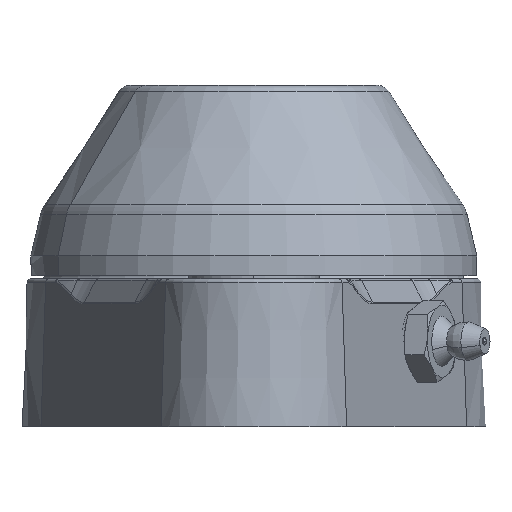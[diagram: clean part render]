
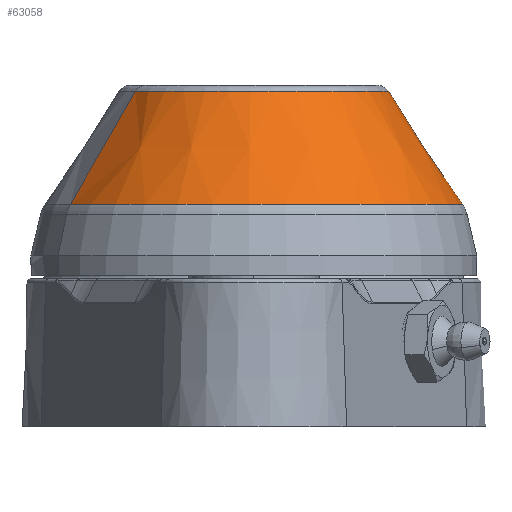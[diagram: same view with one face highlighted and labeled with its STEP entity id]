
A CAD part, left-side view. The second image highlights one B-rep face of the part: STEP entity #63058.
In plain terms, the highlighted conical face has half-angle 33.188 degrees and reference radius 20.592 mm.
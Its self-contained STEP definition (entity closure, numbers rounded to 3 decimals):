
#62084=CARTESIAN_POINT('Vertex',(-9.872,18.071,28.095)) ;
#62091=CARTESIAN_POINT('Vertex',(9.872,-18.071,28.095)) ;
#62111=CARTESIAN_POINT('Axis2P3D Location',(0.,0.,28.095)) ;
#63016=CARTESIAN_POINT('Line Origine',(-131220.921,240198.285,-418395.514)) ;
#63020=CARTESIAN_POINT('Vertex',(-15.265,27.942,10.9)) ;
#63023=CARTESIAN_POINT('Line Origine',(131220.921,-240198.285,-418395.514)) ;
#63027=CARTESIAN_POINT('Vertex',(15.265,-27.942,10.9)) ;
#63042=CARTESIAN_POINT('Axis2P3D Location',(0.,0.,28.095)) ;
#63047=CARTESIAN_POINT('Axis2P3D Location',(0.,0.,10.9)) ;
#62112=DIRECTION('Axis2P3D Direction',(0.,0.,1.)) ;
#63017=DIRECTION('Vector Direction',(-0.262,0.48,-0.837)) ;
#63024=DIRECTION('Vector Direction',(0.262,-0.48,-0.837)) ;
#63043=DIRECTION('Axis2P3D Direction',(-0.,-0.,-1.)) ;
#63044=DIRECTION('Axis2P3D XDirection',(0.479,-0.878,0.)) ;
#63048=DIRECTION('Axis2P3D Direction',(-0.,0.,-1.)) ;
#62113=AXIS2_PLACEMENT_3D('Circle Axis2P3D',#62111,#62112,$) ;
#63045=AXIS2_PLACEMENT_3D('Cone Axis2P3D',#63042,#63043,#63044) ;
#63049=AXIS2_PLACEMENT_3D('Circle Axis2P3D',#63047,#63048,$) ;
#63053=ORIENTED_EDGE('',*,*,#63029,.T.) ;
#63054=ORIENTED_EDGE('',*,*,#62115,.F.) ;
#63055=ORIENTED_EDGE('',*,*,#63022,.F.) ;
#63056=ORIENTED_EDGE('',*,*,#63051,.T.) ;
#63018=VECTOR('Line Direction',#63017,1.) ;
#63025=VECTOR('Line Direction',#63024,1.) ;
#63058=ADVANCED_FACE('PartBody',(#63057),#63046,.T.) ;
#62114=CIRCLE('generated circle',#62113,20.592) ;
#63050=CIRCLE('generated circle',#63049,31.839) ;
#63046=CONICAL_SURFACE('Cone',#63045,20.592,0.579) ;
#62115=EDGE_CURVE('',#62085,#62092,#62114,.T.) ;
#63022=EDGE_CURVE('',#63021,#62085,#63019,.F.) ;
#63029=EDGE_CURVE('',#63028,#62092,#63026,.F.) ;
#63051=EDGE_CURVE('',#63021,#63028,#63050,.F.) ;
#63052=EDGE_LOOP('',(#63053,#63054,#63055,#63056)) ;
#63057=FACE_OUTER_BOUND('',#63052,.T.) ;
#63019=LINE('Line',#63016,#63018) ;
#63026=LINE('Line',#63023,#63025) ;
#62085=VERTEX_POINT('',#62084) ;
#62092=VERTEX_POINT('',#62091) ;
#63021=VERTEX_POINT('',#63020) ;
#63028=VERTEX_POINT('',#63027) ;
